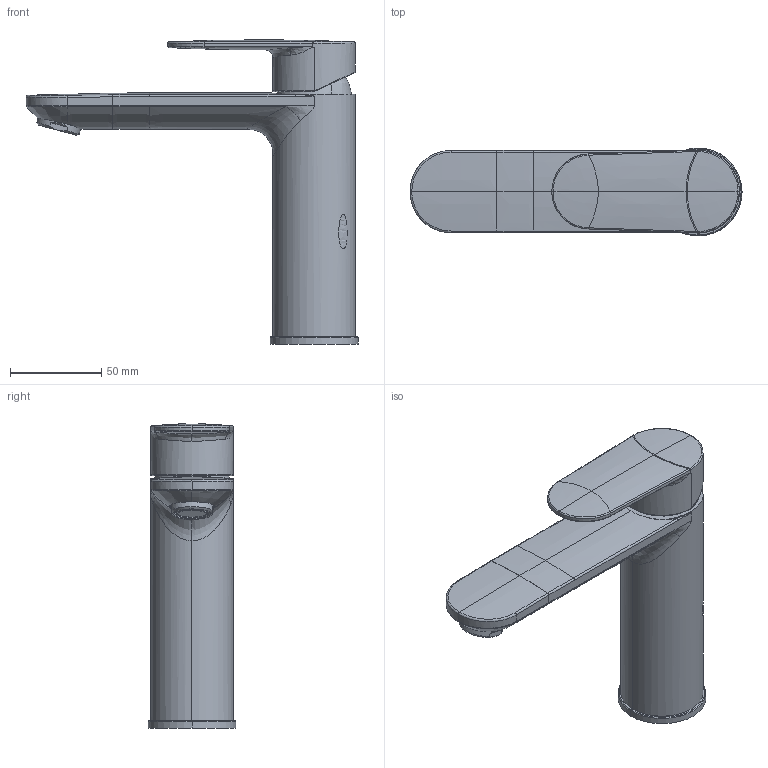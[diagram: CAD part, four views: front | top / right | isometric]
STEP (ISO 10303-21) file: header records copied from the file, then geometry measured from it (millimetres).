
FILE_DESCRIPTION((''),'2;1');
FILE_NAME('12_381_033_XXX-12_381_043_XXX_ASM','2023-01-26T14:14:28',('LF994'),(''),'CREO PARAMETRIC BY PTC INC, 2022244','CREO PARAMETRIC BY PTC INC, 2022244','');
FILE_SCHEMA(('CONFIG_CONTROL_DESIGN'));
Length unit declared in the file: millimetre
Products named in the file (22): 000_8583_M1007_13_1; PRT0036_1_1_2_1; PRT0037_1_1_2_1; ASM0010_ASM_1_1_2_ASM_1_ASM; PRT0038_1_1_2_1; ASM0009_ASM_1_1_2_ASM_1_ASM; PRT0039_1_1_2_1; PRT0040_1_1_2_1; PRT0041_1_1_2_1; PRT0046_1_1_2_1; 00_91132_00001_ASM_10_ASM_1_ASM; 507229_GEBOGEN_ASM_1_1_ASM_1_ASM; 611641_1_1_2_1; 535967_ASM_1_1_2_ASM_1; 615910_42_1; MOLA_S140_ASM_23_ASM_1_ASM; 000_8583_M1007_13_1_2_3_4_1; PRT0034_2_1_2_3_4_1; PRT0035_1_1_2_3_4_1; ASM0008_ASM_2_1_2_3_4_ASM_1_ASM; MOLA_S140_ASM_ASM_1_ASM; 12_381_033_XXX-12_381_043_XXX_ASM
Assembly tree (21 placements, depth 7):
  12_381_033_XXX-12_381_043_XXX_ASM
    MOLA_S140_ASM_ASM_1_ASM
      MOLA_S140_ASM_23_ASM_1_ASM
        00_91132_00001_ASM_10_ASM_1_ASM
          000_8583_M1007_13_1
          ASM0009_ASM_1_1_2_ASM_1_ASM
            ASM0010_ASM_1_1_2_ASM_1_ASM
              PRT0036_1_1_2_1
              PRT0037_1_1_2_1
            PRT0038_1_1_2_1
          PRT0039_1_1_2_1
          PRT0040_1_1_2_1
          PRT0041_1_1_2_1
          PRT0046_1_1_2_1
        507229_GEBOGEN_ASM_1_1_ASM_1_ASM
        611641_1_1_2_1
        535967_ASM_1_1_2_ASM_1
        615910_42_1
      000_8583_M1007_13_1_2_3_4_1
      ASM0008_ASM_2_1_2_3_4_ASM_1_ASM
        PRT0034_2_1_2_3_4_1
        PRT0035_1_1_2_3_4_1
Bounding box: 181.5 x 48 x 166.3 mm (x, y, z)
Volume: 208796.4 mm3; surface area: 110933.6 mm2
Topology: 13 solids, 15 shells, 843 faces, 2130 edges, 1309 vertices
Faces by surface type: cylinder 301, plane 170, bspline 168, torus 82, cone 57, sphere 40, extrusion 25
Entity records: 45191 total; most frequent: CARTESIAN_POINT 25875, ORIENTED_EDGE 4160, DIRECTION 3662, EDGE_CURVE 2080, AXIS2_PLACEMENT_3D 1522, VERTEX_POINT 1309, EDGE_LOOP 913, FACE_OUTER_BOUND 843
